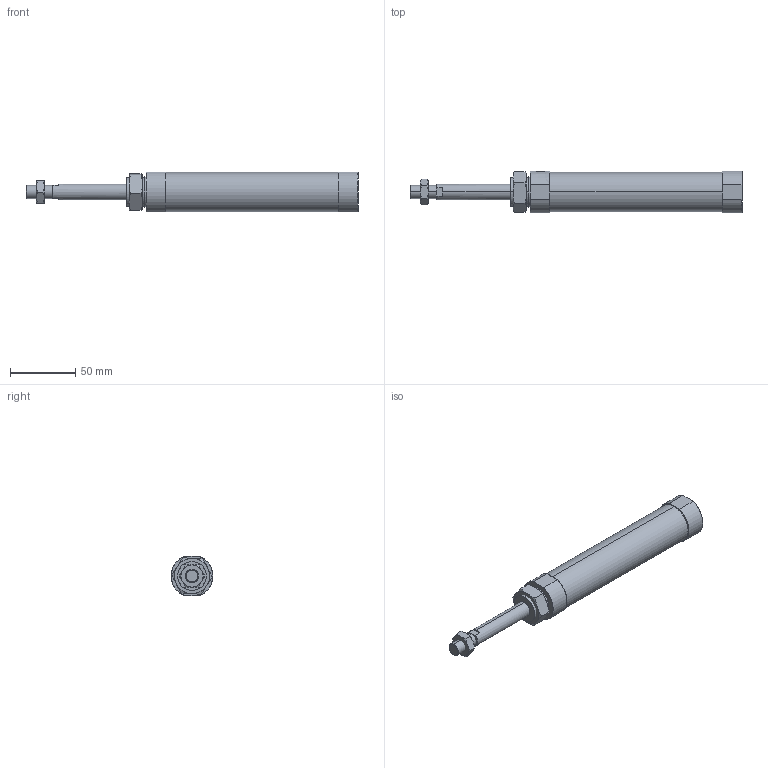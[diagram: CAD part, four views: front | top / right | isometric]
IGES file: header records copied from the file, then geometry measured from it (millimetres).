
Start section: SolidWorks IGES file using analytic representation for surfaces
Global section: file name: C:\Users\Toshiba\Desktop\JGND0-25-50-N.IGS; native system: SolidWorks 2014; preprocessor: SolidWorks 2014; author: Toshiba; date: 160804.101133; units: millimetre
Bounding box: 254 x 32 x 30 mm (x, y, z)
Surface area: 24619.7 mm2 (no closed solid volume)
Topology: 0 solids, 0 shells, 85 faces, 1510 edges, 1508 vertices
Faces by surface type: bspline 59, revolution 26
